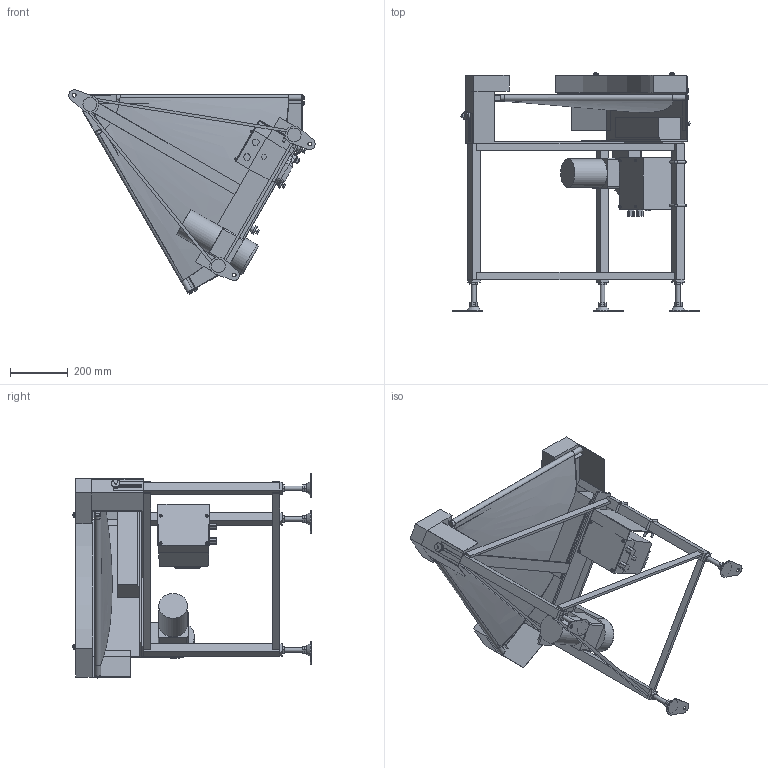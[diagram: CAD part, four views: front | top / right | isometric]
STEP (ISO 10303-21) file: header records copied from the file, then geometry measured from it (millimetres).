
FILE_DESCRIPTION (( 'STEP AP214' ), '1' );
FILE_NAME ('GFBC60-UD500-L.STEP', '2022-09-08T08:08:32', ( '' ), ( '' ), 'SwSTEP 2.0', 'SolidWorks 2017', '' );
FILE_SCHEMA (( 'AUTOMOTIVE_DESIGN' ));
Length unit declared in the file: millimetre
Products named in the file (1): GFBC60-UD500-L
Bounding box: 856.01 x 827.92 x 709.58 mm (x, y, z)
Volume: 20822837.9 mm3; surface area: 3833646.7 mm2
Topology: 54 solids, 55 shells, 955 faces, 2159 edges, 1392 vertices
Faces by surface type: plane 686, cylinder 187, bspline 40, cone 34, torus 6, sphere 2
Full cylindrical faces by diameter (mm): 4 x4, 4.2 x2, 4.5 x1, 5 x4, 5.9 x4, 6 x9, 7 x1, 7.6 x4, 8 x15, 9 x6, 10 x2, 12 x1, 12.2 x2, 12.5 x7, 13 x7, 15 x4, 16 x9, 18 x2, 18.4 x1, 20 x7, 21 x1, 25 x1, 30 x6, 99 x1
Entity records: 44473 total; most frequent: CARTESIAN_POINT 12714, DIRECTION 4100, ORIENTED_EDGE 4024, EDGE_CURVE 2012, VECTOR 1390, LINE 1390, VERTEX_POINT 1365, AXIS2_PLACEMENT_3D 1355
